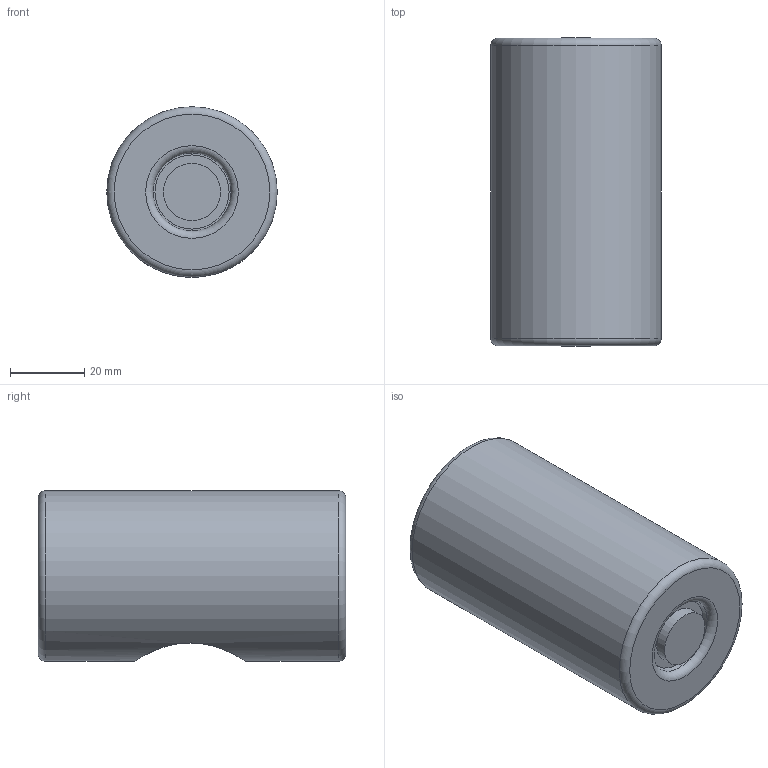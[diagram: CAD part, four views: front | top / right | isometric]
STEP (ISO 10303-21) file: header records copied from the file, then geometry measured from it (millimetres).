
FILE_DESCRIPTION(/* description */ (''),/* implementation_level */ '2;1');
FILE_NAME(/* name */ 'Barrel_Pin.step',/* time_stamp */ '2022-10-31T08:50:12+03:00',/* author */ (''),/* organization */ (''),/* preprocessor_version */ 'ST-DEVELOPER v19.2',/* originating_system */ 'Autodesk Translation Framework v11.17.0.187',/* authorisation */ '');
FILE_SCHEMA (('AUTOMOTIVE_DESIGN { 1 0 10303 214 3 1 1 }'));
Length unit declared in the file: millimetre
Products named in the file (1): Untitled
Bounding box: 46 x 83 x 46 mm (x, y, z)
Volume: 124438.6 mm3; surface area: 21229.9 mm2
Topology: 2 solids, 2 shells, 43 faces, 92 edges, 61 vertices
Faces by surface type: cylinder 23, plane 12, torus 5, bspline 3
Full cylindrical faces by diameter (mm): 6.5 x1, 6.8 x1, 14 x1, 14.5 x1, 15.4 x1, 17.719 x5, 20 x2, 20.492 x5, 21 x1, 46 x1
Entity records: 3214 total; most frequent: CARTESIAN_POINT 2285, ORIENTED_EDGE 184, DIRECTION 174, EDGE_CURVE 92, AXIS2_PLACEMENT_3D 76, VERTEX_POINT 61, EDGE_LOOP 51, FACE_OUTER_BOUND 43
